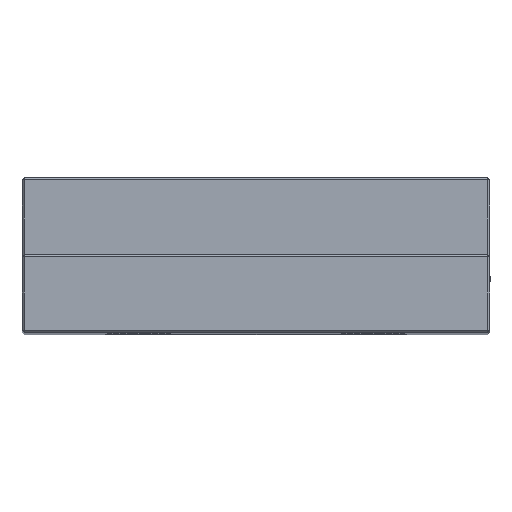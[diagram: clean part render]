
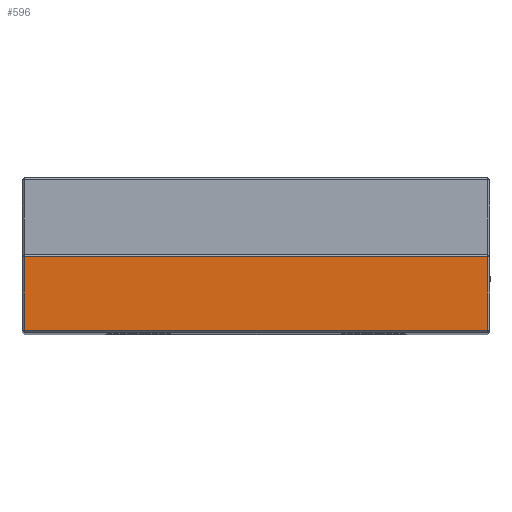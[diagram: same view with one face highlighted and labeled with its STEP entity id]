
A CAD part, top view. The second image highlights one B-rep face of the part: STEP entity #596.
In plain terms, the highlighted planar face has unit normal (0, 0, 1).
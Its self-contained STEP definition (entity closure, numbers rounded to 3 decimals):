
#52 = ORIENTED_EDGE ( 'NONE', *, *, #1425, .T. ) ;
#104 = ORIENTED_EDGE ( 'NONE', *, *, #1060, .T. ) ;
#119 = PLANE ( 'NONE',  #1338 ) ;
#185 = LINE ( 'NONE', #1723, #851 ) ;
#196 = VECTOR ( 'NONE', #833, 1000. ) ;
#322 = CARTESIAN_POINT ( 'NONE',  ( -30., 10., 30. ) ) ;
#371 = VECTOR ( 'NONE', #501, 1000. ) ;
#396 = CARTESIAN_POINT ( 'NONE',  ( -30., 0.3, 30. ) ) ;
#501 = DIRECTION ( 'NONE',  ( 0., -1., 0. ) ) ;
#596 = ADVANCED_FACE ( 'NONE', ( #1721 ), #119, .F. ) ;
#611 = VERTEX_POINT ( 'NONE', #2282 ) ;
#664 = CARTESIAN_POINT ( 'NONE',  ( 29.7, 0.3, 30. ) ) ;
#704 = LINE ( 'NONE', #856, #371 ) ;
#774 = LINE ( 'NONE', #396, #994 ) ;
#833 = DIRECTION ( 'NONE',  ( -1., 0., 0. ) ) ;
#842 = EDGE_CURVE ( 'NONE', #2018, #1475, #774, .T. ) ;
#851 = VECTOR ( 'NONE', #2263, 1000. ) ;
#856 = CARTESIAN_POINT ( 'NONE',  ( -29.7, 10., 30. ) ) ;
#944 = ORIENTED_EDGE ( 'NONE', *, *, #2113, .T. ) ;
#994 = VECTOR ( 'NONE', #1095, 1000. ) ;
#1060 = EDGE_CURVE ( 'NONE', #1153, #2018, #704, .T. ) ;
#1095 = DIRECTION ( 'NONE',  ( 1., 0., 0. ) ) ;
#1153 = VERTEX_POINT ( 'NONE', #1974 ) ;
#1218 = EDGE_LOOP ( 'NONE', ( #944, #104, #1642, #52 ) ) ;
#1338 = AXIS2_PLACEMENT_3D ( 'NONE', #322, #1889, #1677 ) ;
#1425 = EDGE_CURVE ( 'NONE', #1475, #611, #185, .T. ) ;
#1475 = VERTEX_POINT ( 'NONE', #664 ) ;
#1543 = LINE ( 'NONE', #2253, #196 ) ;
#1642 = ORIENTED_EDGE ( 'NONE', *, *, #842, .T. ) ;
#1677 = DIRECTION ( 'NONE',  ( -1., 0., 0. ) ) ;
#1721 = FACE_OUTER_BOUND ( 'NONE', #1218, .T. ) ;
#1723 = CARTESIAN_POINT ( 'NONE',  ( 29.7, 10., 30. ) ) ;
#1834 = CARTESIAN_POINT ( 'NONE',  ( -29.7, 0.3, 30. ) ) ;
#1889 = DIRECTION ( 'NONE',  ( 0., 0., -1. ) ) ;
#1974 = CARTESIAN_POINT ( 'NONE',  ( -29.7, 9.7, 30. ) ) ;
#2018 = VERTEX_POINT ( 'NONE', #1834 ) ;
#2113 = EDGE_CURVE ( 'NONE', #611, #1153, #1543, .T. ) ;
#2253 = CARTESIAN_POINT ( 'NONE',  ( -30., 9.7, 30. ) ) ;
#2263 = DIRECTION ( 'NONE',  ( 0., 1., 0. ) ) ;
#2282 = CARTESIAN_POINT ( 'NONE',  ( 29.7, 9.7, 30. ) ) ;
